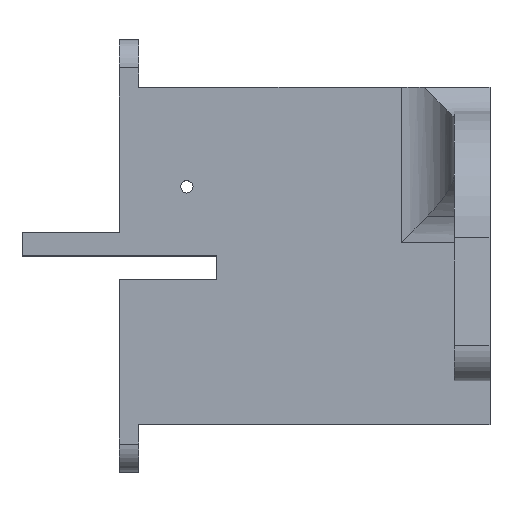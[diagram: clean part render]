
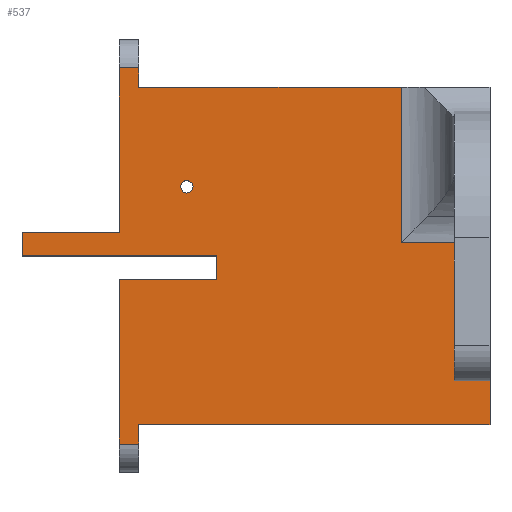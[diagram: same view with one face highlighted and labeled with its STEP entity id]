
A CAD part, top view. The second image highlights one B-rep face of the part: STEP entity #537.
In plain terms, the highlighted planar face has unit normal (0, 0, 1).
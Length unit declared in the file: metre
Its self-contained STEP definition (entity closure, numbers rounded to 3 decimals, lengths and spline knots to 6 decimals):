
#27=LINE('',#796,#79);
#28=LINE('',#799,#80);
#29=LINE('',#801,#81);
#30=LINE('',#803,#82);
#31=LINE('',#805,#83);
#32=LINE('',#807,#84);
#33=LINE('',#809,#85);
#34=LINE('',#811,#86);
#35=LINE('',#813,#87);
#36=LINE('',#815,#88);
#37=LINE('',#817,#89);
#38=LINE('',#819,#90);
#39=LINE('',#821,#91);
#40=LINE('',#823,#92);
#41=LINE('',#825,#93);
#42=LINE('',#827,#94);
#79=VECTOR('',#638,1.);
#80=VECTOR('',#639,1.);
#81=VECTOR('',#640,1.);
#82=VECTOR('',#641,1.);
#83=VECTOR('',#642,1.);
#84=VECTOR('',#643,1.);
#85=VECTOR('',#644,1.);
#86=VECTOR('',#645,1.);
#87=VECTOR('',#646,1.);
#88=VECTOR('',#647,1.);
#89=VECTOR('',#648,1.);
#90=VECTOR('',#649,1.);
#91=VECTOR('',#650,1.);
#92=VECTOR('',#651,1.);
#93=VECTOR('',#652,1.);
#94=VECTOR('',#653,1.);
#131=ORIENTED_EDGE('',*,*,#285,.F.);
#132=ORIENTED_EDGE('',*,*,#286,.F.);
#133=ORIENTED_EDGE('',*,*,#287,.T.);
#134=ORIENTED_EDGE('',*,*,#288,.F.);
#135=ORIENTED_EDGE('',*,*,#289,.F.);
#136=ORIENTED_EDGE('',*,*,#290,.F.);
#137=ORIENTED_EDGE('',*,*,#291,.F.);
#138=ORIENTED_EDGE('',*,*,#292,.T.);
#139=ORIENTED_EDGE('',*,*,#293,.T.);
#140=ORIENTED_EDGE('',*,*,#294,.T.);
#141=ORIENTED_EDGE('',*,*,#295,.T.);
#142=ORIENTED_EDGE('',*,*,#296,.T.);
#143=ORIENTED_EDGE('',*,*,#297,.T.);
#144=ORIENTED_EDGE('',*,*,#298,.F.);
#145=ORIENTED_EDGE('',*,*,#299,.F.);
#146=ORIENTED_EDGE('',*,*,#300,.F.);
#147=ORIENTED_EDGE('',*,*,#301,.T.);
#285=EDGE_CURVE('',#362,#362,#416,.T.);
#286=EDGE_CURVE('',#363,#364,#27,.T.);
#287=EDGE_CURVE('',#363,#365,#28,.T.);
#288=EDGE_CURVE('',#366,#365,#29,.T.);
#289=EDGE_CURVE('',#367,#366,#30,.T.);
#290=EDGE_CURVE('',#368,#367,#31,.T.);
#291=EDGE_CURVE('',#369,#368,#32,.T.);
#292=EDGE_CURVE('',#369,#370,#33,.T.);
#293=EDGE_CURVE('',#370,#371,#34,.F.);
#294=EDGE_CURVE('',#371,#372,#35,.T.);
#295=EDGE_CURVE('',#372,#373,#36,.T.);
#296=EDGE_CURVE('',#373,#374,#37,.T.);
#297=EDGE_CURVE('',#374,#375,#38,.T.);
#298=EDGE_CURVE('',#376,#375,#39,.T.);
#299=EDGE_CURVE('',#377,#376,#40,.T.);
#300=EDGE_CURVE('',#378,#377,#41,.T.);
#301=EDGE_CURVE('',#378,#364,#42,.T.);
#362=VERTEX_POINT('',#795);
#363=VERTEX_POINT('',#797);
#364=VERTEX_POINT('',#798);
#365=VERTEX_POINT('',#800);
#366=VERTEX_POINT('',#802);
#367=VERTEX_POINT('',#804);
#368=VERTEX_POINT('',#806);
#369=VERTEX_POINT('',#808);
#370=VERTEX_POINT('',#810);
#371=VERTEX_POINT('',#812);
#372=VERTEX_POINT('',#814);
#373=VERTEX_POINT('',#816);
#374=VERTEX_POINT('',#818);
#375=VERTEX_POINT('',#820);
#376=VERTEX_POINT('',#822);
#377=VERTEX_POINT('',#824);
#378=VERTEX_POINT('',#826);
#416=CIRCLE('',#580,0.0016);
#438=EDGE_LOOP('',(#131));
#439=EDGE_LOOP('',(#132,#133,#134,#135,#136,#137,#138,#139,#140,#141,#142,#143,#144,#145,#146,#147));
#479=FACE_BOUND('',#438,.T.);
#480=FACE_BOUND('',#439,.T.);
#520=PLANE('',#579);
#537=ADVANCED_FACE('',(#479,#480),#520,.T.);
#579=AXIS2_PLACEMENT_3D('',#793,#634,#635);
#580=AXIS2_PLACEMENT_3D('',#794,#636,#637);
#634=DIRECTION('',(0.,0.,1.));
#635=DIRECTION('',(1.,0.,0.));
#636=DIRECTION('',(0.,0.,1.));
#637=DIRECTION('',(1.,0.,0.));
#638=DIRECTION('',(0.,1.,0.));
#639=DIRECTION('',(-1.,0.,0.));
#640=DIRECTION('',(0.,1.,0.));
#641=DIRECTION('',(-1.,0.,0.));
#642=DIRECTION('',(0.,-1.,0.));
#643=DIRECTION('',(-1.,0.,0.));
#644=DIRECTION('',(0.,1.,0.));
#645=DIRECTION('',(1.,0.,0.));
#646=DIRECTION('',(0.,1.,0.));
#647=DIRECTION('',(-1.,0.,0.));
#648=DIRECTION('',(0.,1.,0.));
#649=DIRECTION('',(-1.,0.,0.));
#650=DIRECTION('',(0.,1.,0.));
#651=DIRECTION('',(1.,0.,0.));
#652=DIRECTION('',(0.,1.,0.));
#653=DIRECTION('',(1.,0.,0.));
#793=CARTESIAN_POINT('',(0.121378,0.040219,-0.018633));
#794=CARTESIAN_POINT('',(0.043457,0.02343,-0.018633));
#795=CARTESIAN_POINT('',(0.045057,0.02343,-0.018633));
#796=CARTESIAN_POINT('',(0.051078,0.040219,-0.018633));
#797=CARTESIAN_POINT('',(0.051078,-0.000349,-0.018633));
#798=CARTESIAN_POINT('',(0.051078,0.005651,-0.018633));
#799=CARTESIAN_POINT('',(0.051078,-0.000349,-0.018633));
#800=CARTESIAN_POINT('',(0.026078,-0.000349,-0.018633));
#801=CARTESIAN_POINT('',(0.026078,0.040219,-0.018633));
#802=CARTESIAN_POINT('',(0.026078,-0.042694,-0.018633));
#803=CARTESIAN_POINT('',(0.031078,-0.042694,-0.018633));
#804=CARTESIAN_POINT('',(0.031078,-0.042694,-0.018633));
#805=CARTESIAN_POINT('',(0.031078,-0.040194,-0.018633));
#806=CARTESIAN_POINT('',(0.031078,-0.037694,-0.018633));
#807=CARTESIAN_POINT('',(0.121378,-0.037694,-0.018633));
#808=CARTESIAN_POINT('',(0.121378,-0.037694,-0.018633));
#809=CARTESIAN_POINT('',(0.121378,-0.012868,-0.018633));
#810=CARTESIAN_POINT('',(0.121378,0.009078,-0.018633));
#811=CARTESIAN_POINT('',(0.112178,0.009078,-0.018633));
#812=CARTESIAN_POINT('',(0.098566,0.009078,-0.018633));
#813=CARTESIAN_POINT('',(0.098566,0.040219,-0.018633));
#814=CARTESIAN_POINT('',(0.098566,0.048997,-0.018633));
#815=CARTESIAN_POINT('',(0.121378,0.048997,-0.018633));
#816=CARTESIAN_POINT('',(0.031078,0.048997,-0.018633));
#817=CARTESIAN_POINT('',(0.031078,0.051497,-0.018633));
#818=CARTESIAN_POINT('',(0.031078,0.053997,-0.018633));
#819=CARTESIAN_POINT('',(0.031078,0.053997,-0.018633));
#820=CARTESIAN_POINT('',(0.026078,0.053997,-0.018633));
#821=CARTESIAN_POINT('',(0.026078,0.040219,-0.018633));
#822=CARTESIAN_POINT('',(0.026078,0.011651,-0.018633));
#823=CARTESIAN_POINT('',(0.001078,0.011651,-0.018633));
#824=CARTESIAN_POINT('',(0.001078,0.011651,-0.018633));
#825=CARTESIAN_POINT('',(0.001078,0.040219,-0.018633));
#826=CARTESIAN_POINT('',(0.001078,0.005651,-0.018633));
#827=CARTESIAN_POINT('',(0.001078,0.005651,-0.018633));
